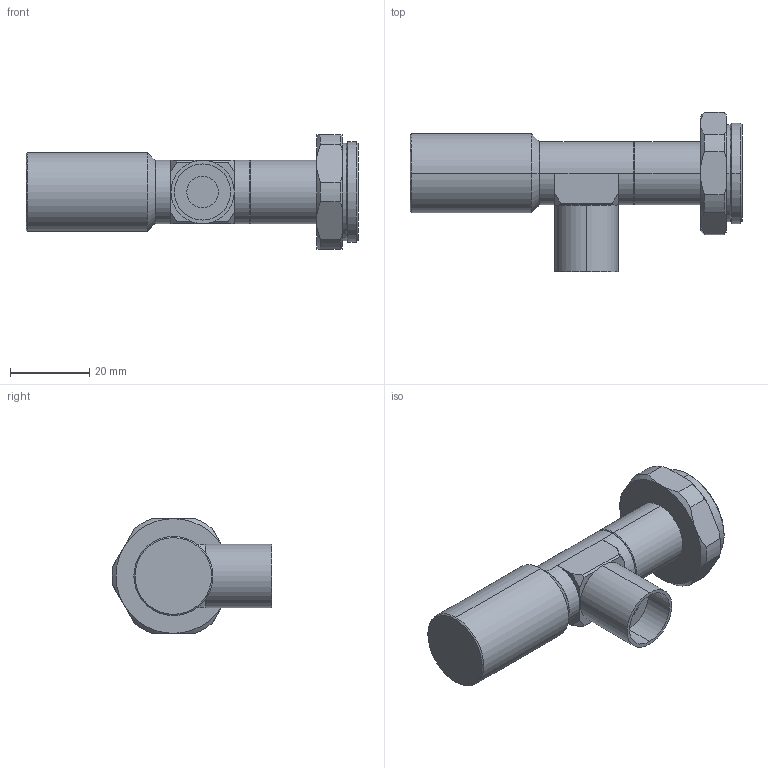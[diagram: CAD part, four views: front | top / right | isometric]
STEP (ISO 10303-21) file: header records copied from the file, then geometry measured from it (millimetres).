
FILE_DESCRIPTION (( 'STEP AP203' ), '1' );
FILE_NAME ('TS-APT08X65D_Drawing_M0250E-A001.STEP', '2023-01-31T05:40:01', ( '' ), ( '' ), 'SwSTEP 2.0', 'SolidWorks 2021', '' );
FILE_SCHEMA (( 'CONFIG_CONTROL_DESIGN' ));
Length unit declared in the file: millimetre
Products named in the file (1): TS-APT08X65D_Drawing_M0250E-A001
Bounding box: 83.97 x 40.38 x 29 mm (x, y, z)
Volume: 27082.9 mm3; surface area: 8466.3 mm2
Topology: 2 solids, 2 shells, 78 faces, 178 edges, 108 vertices
Faces by surface type: cone 28, plane 27, cylinder 23
Entity records: 2311 total; most frequent: CARTESIAN_POINT 471, DIRECTION 382, ORIENTED_EDGE 356, EDGE_CURVE 178, AXIS2_PLACEMENT_3D 151, VERTEX_POINT 108, EDGE_LOOP 84, LINE 80
